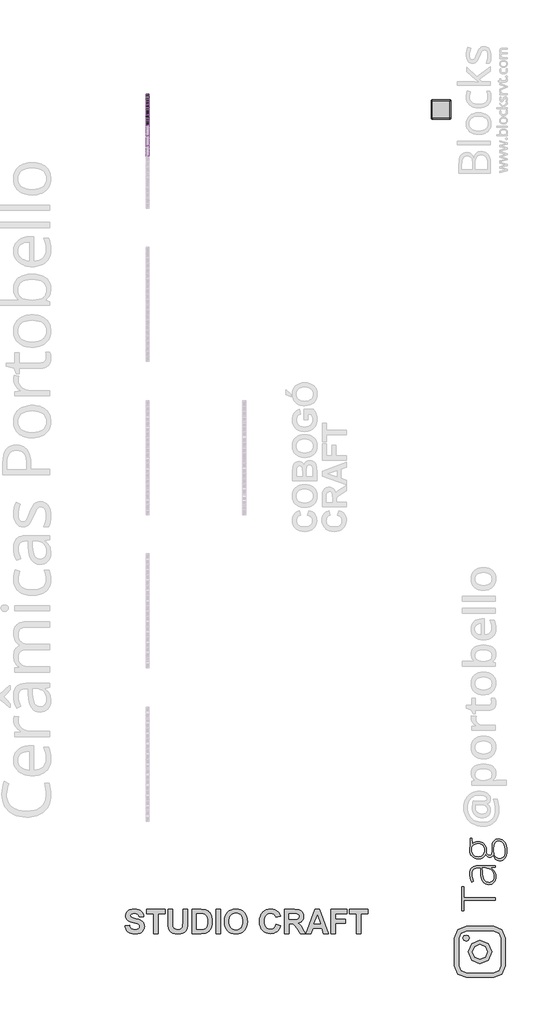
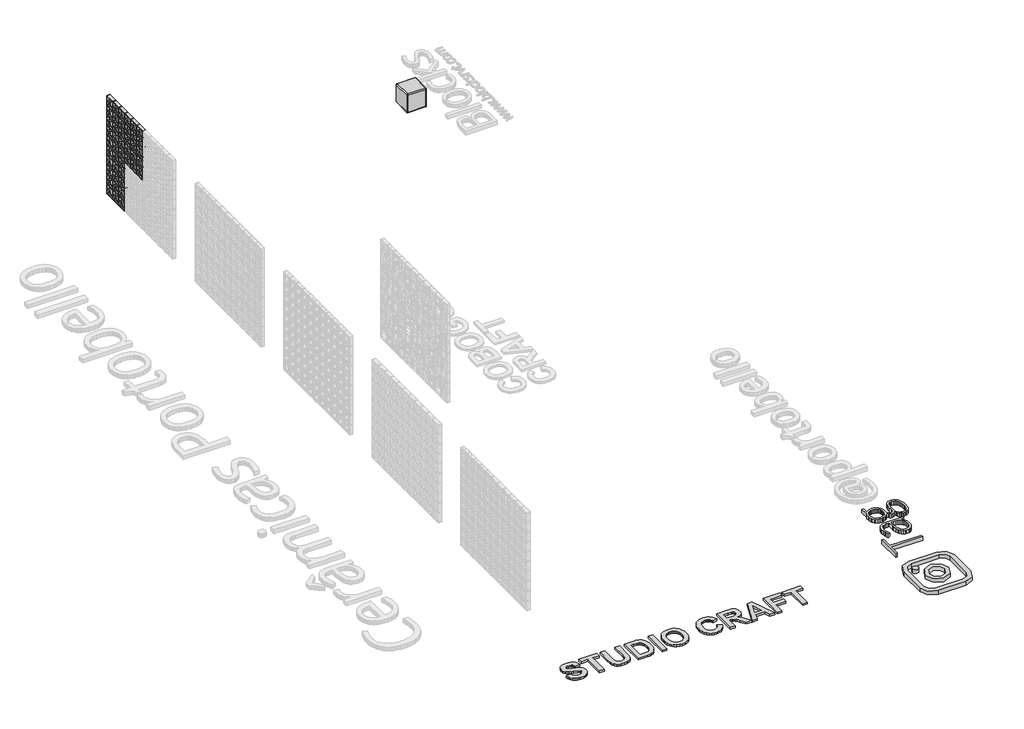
# One storey, part 4 of 8: 45 plates, 3 proxies, 1 furniture element.
"""IFC4 building model written with IfcOpenShell, lengths in millimetres."""

from ifc_helpers import new_model, si_unit, origin, origin_with_axes, place, context, project, spatial, polyline, outline, extrude, transform, mapped, element, save
from components import generic_models_d67f6705, branco_22256ad2, plate_8e8c4e3e

model = new_model("IFC4")

# Units and contexts
model_context = context("Model", 3, world=origin())
ifc_project = project(units=[si_unit("LENGTHUNIT", "METRE", prefix="MILLI")], contexts=[model_context])

# Site, building, storey
site = spatial("IfcSite", under=ifc_project)
building = spatial("IfcBuilding", under=site)
storey = spatial("IfcBuildingStorey", under=building, Name="PORTOBELLO - SHOWROOM", Elevation=0.0)

# Proxies
placement = place(None, origin())
generic_models_shape = generic_models_d67f6705(model_context)
element("IfcBuildingElementProxy", 1, Name="Blks_Instagram1 : Único 2", ObjectType="Blks_Instagram1 : Único 2", at=placement, inside=storey, context=model_context, shape_type="MappedRepresentation", body=[
    mapped(generic_models_shape, transform((236430.0390446, -13157.7679568, 0.0), x_axis=(-1.0, 0.0, 0.0), y_axis=(0.0, -1.0, 0.0), z_axis=(0.0, 0.0, 1.0))),
])
element("IfcBuildingElementProxy", 2, Name="600mm Arial", ObjectType="600mm Arial", at=placement, inside=storey, context=model_context, shape_type="SweptSolid", body=[
    extrude(outline(polyline([(227380.3047058, -12484.6483912), (227496.9057801, -12474.931635), (227503.9656107, -12503.0001553), (227513.9101034, -12527.0832874), (227526.739258, -12547.1810311), (227542.4530747, -12563.2933866), (227561.0989984, -12575.6480903), (227582.7244744, -12584.4728786), (227607.3295025, -12589.7677516), (227634.9140828, -12591.5327093), (227663.9030381, -12589.9717655), (227689.0774074, -12585.2889343), (227710.4371907, -12577.4842156), (227727.9823882, -12566.5576094), (227741.6655546, -12553.5434189), (227751.4392449, -12539.4759471), (227757.3034591, -12524.3551942), (227759.2581972, -12508.1811601), (227756.0129524, -12488.3491089), (227746.2772182, -12471.6674122), (227728.4188831, -12457.5667289), (227700.8058357, -12445.4777178), (227599.6908416, -12419.5157599), (227552.7581501, -12406.8479185), (227513.3787183, -12392.6808121), (227481.5525462, -12377.0144406), (227457.2796337, -12359.8488039), (227432.1052644, -12333.2700597), (227414.123572, -12303.9394997), (227403.3345566, -12271.8571241), (227399.7382182, -12237.0229327), (227401.3893076, -12214.097461), (227406.3425759, -12191.931111), (227414.598023, -12170.5238825), (227426.155649, -12149.8757756), (227440.8256735, -12130.812335), (227458.4183161, -12114.1591054), (227478.9335767, -12099.9160868), (227502.3714554, -12088.0832792), (227528.5516608, -12078.7840399), (227557.2939015, -12072.1417261), (227622.464489, -12066.827875), (227676.3763545, -12070.1395429), (227723.1809442, -12080.0745466), (227762.8782582, -12096.632886), (227795.4682964, -12119.8145611), (227821.0554381, -12148.5188458), (227839.7440624, -12181.6450136), (227851.5341694, -12219.1930646), (227856.4257591, -12261.1629988), (227739.8246848, -12261.1629988), (227734.5535344, -12239.4948223), (227726.938596, -12221.1003576), (227716.9798698, -12205.9796047), (227704.6773558, -12194.1325635), (227689.5186468, -12185.1986515), (227670.9913358, -12178.8172857), (227623.8309078, -12173.7121931), (227574.1843566, -12179.1399124), (227553.9158105, -12185.9245615), (227536.6837507, -12195.4230702), (227521.425407, -12211.7441841), (227516.3392924, -12232.7718518), (227520.9699341, -12252.6228811), (227534.8618589, -12269.3615119), (227550.8271346, -12279.0830126), (227575.1901927, -12288.9658266), (227649.1096563, -12309.2153947), (227728.0013662, -12330.2810184), (227783.246439, -12352.3335003), (227821.9616395, -12379.0356018), (227851.2637324, -12414.0500845), (227862.0242807, -12434.7835926), (227869.7103867, -12457.8134434), (227874.3220503, -12483.1396371), (227875.8592715, -12510.7621735), (227874.0421242, -12536.4584389), (227868.5906824, -12561.3196705), (227859.504946, -12585.3458684), (227846.7849151, -12608.5370326), (227830.7389827, -12629.8493709), (227811.6755421, -12648.2390911), (227789.5945932, -12663.7061933), (227764.4961361, -12676.2506773), (227736.2520689, -12685.9484555), (227704.7342899, -12692.8754399), (227631.8775965, -12698.4170274), (227577.3916453, -12695.0057248), (227529.62392, -12684.771817), (227488.5744207, -12667.7153041), (227454.2431474, -12643.836186), (227426.3928745, -12613.4191333), (227404.7863766, -12576.7488166), (227389.4236537, -12533.8252359), (227380.3047058, -12484.6483912)])), origin_with_axes(), (0.0, 0.0, 1.0), 50.0),
    extrude(outline(polyline([(228109.06142, -12688.7002712), (228109.06142, -12183.4289493), (227934.1598086, -12183.4289493), (227934.1598086, -12076.5446312), (228400.5641057, -12076.5446312), (228400.5641057, -12183.4289493), (228225.6624943, -12183.4289493), (228225.6624943, -12688.7002712), (228109.06142, -12688.7002712)])), origin_with_axes(), (0.0, 0.0, 1.0), 50.0),
    extrude(outline(polyline([(228478.2981553, -12076.5446312), (228594.8992295, -12076.5446312), (228594.8992295, -12406.7625174), (228596.1517801, -12471.5915001), (228599.9094319, -12508.7884574), (228605.726201, -12526.5471578), (228614.5225223, -12542.4744774), (228626.2983958, -12556.5704161), (228641.0538214, -12568.8349741), (228658.7887993, -12578.7652333), (228679.5033293, -12585.8582755), (228729.871046, -12591.5327093), (228780.1818285, -12586.1809022), (228800.0281133, -12579.4911433), (228816.3349936, -12570.1254808), (228839.621048, -12546.2700852), (228851.3304984, -12517.5183555), (228855.7713596, -12476.0133833), (228857.2516467, -12413.8982602), (228857.2516467, -12076.5446312), (228973.8527209, -12076.5446312), (228973.8527209, -12397.6530584), (228971.3096637, -12491.6702658), (228963.6804918, -12553.2729818), (228949.2192258, -12595.1575148), (228926.1798859, -12630.0201733), (228894.2398455, -12658.1646057), (228853.076478, -12679.8944609), (228800.2985503, -12693.7863858), (228733.5148296, -12698.4170274), (228655.287351, -12693.3688689), (228624.2297895, -12687.0586708), (228598.5430131, -12678.2243934), (228557.3606675, -12654.9952732), (228525.819166, -12625.6931803), (228503.6528159, -12592.5575234), (228490.5959248, -12557.8277113), (228481.3725976, -12492.7709921), (228478.2981553, -12402.6632608), (228478.2981553, -12076.5446312)])), origin_with_axes(), (0.0, 0.0, 1.0), 50.0),
    extrude(outline(polyline([(229090.4537952, -12076.5446312), (229317.1274982, -12076.5446312), (229384.6893186, -12079.4672493), (229434.0322211, -12088.2351035), (229460.0890693, -12097.7383568), (229484.2101574, -12110.3065634), (229506.3954855, -12125.9397234), (229526.6450536, -12144.6378367), (229544.7738257, -12166.0071091), (229560.5967661, -12189.6537462), (229585.3251515, -12243.7791147), (229594.1262173, -12274.8319317), (229600.4126929, -12309.3102849), (229605.4418733, -12388.5435995), (229600.7353195, -12458.8382576), (229586.6156582, -12518.8088622), (229573.8434376, -12550.6160563), (229558.604072, -12579.2349397), (229540.8975612, -12604.6655126), (229520.7239053, -12626.9077748), (229482.8437386, -12654.7675367), (229433.5767482, -12675.7952044), (229385.6382206, -12685.4740045), (229323.8077681, -12688.7002712), (229090.4537952, -12688.7002712), (229090.4537952, -12076.5446312)]), holes=[polyline([(229207.0548695, -12183.4289493), (229207.0548695, -12581.8159531), (229306.3479718, -12581.8159531), (229354.3244555, -12580.3736221), (229386.814859, -12576.0466291), (229416.4016225, -12566.1590706), (229440.4847545, -12551.0715292), (229459.8613328, -12527.7095627), (229475.3284349, -12492.9987286), (229485.462708, -12445.2499813), (229488.840799, -12382.7742755), (229485.462708, -12321.1715595), (229475.3284349, -12275.7381331), (229459.1401673, -12242.488608), (229437.6000925, -12217.437596), (229410.1009134, -12199.9018875), (229376.0353326, -12189.1982733), (229334.7770749, -12184.8712803), (229266.8736498, -12183.4289493), (229207.0548695, -12183.4289493)])]), origin_with_axes(), (0.0, 0.0, 1.0), 50.0),
    extrude(outline(polyline([(229702.6094352, -12688.7002712), (229702.6094352, -12076.5446312), (229819.2105095, -12076.5446312), (229819.2105095, -12688.7002712), (229702.6094352, -12688.7002712)])), origin_with_axes(), (0.0, 0.0, 1.0), 50.0),
    extrude(outline(polyline([(229916.3780714, -12386.4180591), (229918.095584, -12341.610908), (229923.2481217, -12300.5614087), (229931.8356845, -12263.2695612), (229943.8582725, -12229.7353655), (229968.0932288, -12185.4975556), (229999.8055327, -12146.0042555), (230036.9455559, -12113.6846544), (230077.4636701, -12090.9679412), (230106.6329167, -12080.4066622), (230137.9656598, -12072.8628916), (230171.4618994, -12068.3366292), (230207.1216355, -12066.827875), (230270.2236166, -12072.0610694), (230326.6832839, -12087.7606525), (230376.5006375, -12113.9266244), (230419.6756772, -12150.558985), (230438.3571847, -12172.5130183), (230454.5478246, -12196.509563), (230479.4565014, -12250.6301869), (230494.4017074, -12312.9208569), (230499.3834428, -12383.3815728), (230494.4396635, -12453.3630932), (230479.6083257, -12515.2789468), (230454.8894293, -12569.1291337), (230438.8221467, -12593.0296022), (230420.2829744, -12614.9136539), (230377.3926053, -12651.4463798), (230327.8219663, -12677.541184), (230271.5710574, -12693.1980665), (230208.6398787, -12698.4170274), (230145.0444685, -12693.2217891), (230088.3191087, -12677.6360742), (230038.4637991, -12651.6598827), (229995.4785397, -12615.2932147), (229960.8720848, -12569.8170877), (229936.1531885, -12516.5125194), (229921.3218507, -12455.3795099), (229916.3780714, -12386.4180591)]), holes=[polyline([(230032.9791457, -12382.1669783), (230036.0773106, -12430.5894459), (230045.3718054, -12472.7681385), (230060.8626301, -12508.7030562), (230082.5497847, -12538.3941989), (230109.0099161, -12561.6422972), (230138.8196716, -12578.2480817), (230171.979051, -12588.2115524), (230208.4880543, -12591.5327093), (230244.9591016, -12588.2352749), (230278.0046128, -12578.3429719), (230307.6245878, -12561.8558001), (230333.8190268, -12538.7737597), (230355.2404888, -12509.0968505), (230370.5415331, -12472.8250726), (230379.7221596, -12429.9584261), (230382.7823685, -12380.4969108), (230379.8028163, -12331.7233494), (230370.8641597, -12289.5541458), (230355.9663988, -12253.9892999), (230335.1095334, -12225.0288117), (230309.3183779, -12202.5777911), (230279.6177461, -12186.5413478), (230246.0076383, -12176.9194818), (230208.4880543, -12173.7121931), (230170.9305143, -12176.9574379), (230137.2065382, -12186.6931721), (230107.3161261, -12202.9193958), (230081.259278, -12225.636109), (230060.1367201, -12254.8907568), (230045.0491787, -12290.7307843), (230035.9966539, -12333.1561914), (230032.9791457, -12382.1669783)])]), origin_with_axes(), (0.0, 0.0, 1.0), 50.0),
    extrude(outline(polyline([(231228.140157, -12455.4981226), (231344.7412313, -12494.3651474), (231328.6383649, -12540.4675497), (231307.9617909, -12580.2407758), (231282.7115094, -12613.6848258), (231252.8875205, -12640.7996997), (231218.6131812, -12661.7561997), (231180.011849, -12676.7251283), (231137.0835238, -12685.7064855), (231089.8282056, -12688.7002712), (231031.4422673, -12683.5856896), (230978.5030263, -12668.2419447), (230931.0104826, -12642.6690365), (230888.9646363, -12606.8669652), (230854.5574508, -12562.1926603), (230829.9808897, -12510.0030519), (230815.2349531, -12450.2981398), (230810.3196409, -12383.0779242), (230815.2776537, -12312.1949469), (230830.1516921, -12249.700263), (230854.9417561, -12195.5938726), (230871.0552977, -12171.6862874), (230889.6478457, -12149.8757756), (230932.4385801, -12113.5423191), (230981.4825785, -12087.5898502), (231036.7798409, -12072.0183688), (231098.3303673, -12066.827875), (231152.1520872, -12071.1074229), (231200.6599559, -12083.9460666), (231243.8539737, -12105.3438061), (231281.7341404, -12135.3006413), (231301.4428344, -12157.7042169), (231318.5135808, -12184.5296756), (231332.9463798, -12215.7770175), (231344.7412313, -12251.4462426), (231228.140157, -12270.879755), (231220.7909113, -12249.5247161), (231210.2818219, -12230.5514212), (231196.612889, -12213.9598702), (231179.7841126, -12199.7500632), (231160.3838118, -12188.3584951), (231139.0003058, -12180.2216606), (231115.6335948, -12175.33956), (231090.2836786, -12173.7121931), (231055.6345231, -12176.6680228), (231024.4109037, -12185.5355117), (230996.6128205, -12200.3146599), (230972.2402733, -12221.0054674), (230952.4129666, -12248.3101216), (230938.2506047, -12282.9308101), (230929.7531875, -12324.8675327), (230926.9207152, -12374.1202895), (230929.6677864, -12426.2529639), (230937.909, -12470.3009934), (230951.644356, -12506.2643781), (230970.8738545, -12534.143118), (230994.5062581, -12554.9999834), (231021.4503296, -12569.8977443), (231051.7060689, -12578.8364009), (231085.2734762, -12581.8159531), (231110.2628096, -12579.9134046), (231133.4587183, -12574.2057593), (231154.8612023, -12564.693017), (231174.4702615, -12551.3751779), (231191.8588902, -12533.9675712), (231206.6000823, -12512.1855264), (231218.6938379, -12486.0290436), (231228.140157, -12455.4981226)])), origin_with_axes(), (0.0, 0.0, 1.0), 50.0),
    extrude(outline(polyline([(231441.9087932, -12688.7002712), (231441.9087932, -12076.5446312), (231699.4028323, -12076.5446312), (231783.2857666, -12080.6818438), (231815.263763, -12085.8533596), (231840.5994456, -12093.0934816), (231861.5132451, -12102.9810401), (231880.225592, -12116.0948654), (231896.7364863, -12132.4349574), (231911.045928, -12152.001316), (231922.603554, -12173.9494186), (231930.8590012, -12197.4347424), (231935.8122695, -12222.4572874), (231937.4633589, -12249.0170536), (231935.0768705, -12282.1242434), (231927.9174051, -12312.2139249), (231915.9849628, -12339.2860982), (231899.2795436, -12363.3407631), (231877.8201255, -12383.7990897), (231851.6256866, -12400.0822475), (231820.6962268, -12412.1902366), (231785.0317462, -12420.1230571), (231818.8506125, -12444.4908598), (231846.2169453, -12471.1360271), (231874.5321802, -12509.7373593), (231911.1977523, -12569.9736565), (231986.0471399, -12688.7002712), (231849.8607289, -12688.7002712), (231761.1953287, -12548.8700766), (231718.3618937, -12495.1812031), (231691.58388, -12465.8980882), (231672.2642359, -12451.4937563), (231651.8059094, -12442.4412315), (231624.6483349, -12437.6587656), (231585.230947, -12436.0646103), (231558.5098675, -12436.0646103), (231558.5098675, -12688.7002712), (231441.9087932, -12688.7002712)]), holes=[polyline([(231558.5098675, -12329.1802922), (231654.6146592, -12329.1802922), (231730.4698828, -12327.4153345), (231771.2916456, -12322.1204615), (231792.0536208, -12312.5175735), (231807.7294813, -12297.828571), (231817.5790838, -12278.4519928), (231820.8622846, -12254.7863776), (231816.5352916, -12228.5777051), (231803.5543127, -12207.9485763), (231782.6784693, -12193.39242), (231754.6668831, -12185.4026654), (231659.9285102, -12183.4289493), (231558.5098675, -12183.4289493), (231558.5098675, -12329.1802922)])]), origin_with_axes(), (0.0, 0.0, 1.0), 50.0),
    extrude(outline(polyline([(232569.0525113, -12688.7002712), (232446.5302887, -12688.7002712), (232398.553805, -12552.6656845), (232167.3253725, -12552.6656845), (232119.9561861, -12688.7002712), (231995.7638961, -12688.7002712), (232219.2492884, -12076.5446312), (232343.4415785, -12076.5446312), (232569.0525113, -12688.7002712)]), holes=[polyline([(232361.2050234, -12445.7813664), (232282.4082037, -12222.2959741), (232204.6741541, -12445.7813664), (232361.2050234, -12445.7813664)])]), origin_with_axes(), (0.0, 0.0, 1.0), 50.0),
    extrude(outline(polyline([(232627.3530484, -12688.7002712), (232627.3530484, -12076.5446312), (233045.1735646, -12076.5446312), (233045.1735646, -12183.4289493), (232743.9541227, -12183.4289493), (232743.9541227, -12319.463536), (233006.3065398, -12319.463536), (233006.3065398, -12426.3478541), (232743.9541227, -12426.3478541), (232743.9541227, -12688.7002712), (232627.3530484, -12688.7002712)])), origin_with_axes(), (0.0, 0.0, 1.0), 50.0),
    extrude(outline(polyline([(233278.3757131, -12688.7002712), (233278.3757131, -12183.4289493), (233103.4741017, -12183.4289493), (233103.4741017, -12076.5446312), (233569.8783988, -12076.5446312), (233569.8783988, -12183.4289493), (233394.9767874, -12183.4289493), (233394.9767874, -12688.7002712), (233278.3757131, -12688.7002712)])), origin_with_axes(), (0.0, 0.0, 1.0), 50.0),
])
element("IfcBuildingElementProxy", 3, Name="80mm OpenSans Light", ObjectType="80mm OpenSans Light", at=placement, inside=storey, context=model_context, shape_type="SweptSolid", body=[
    extrude(outline(polyline([(236821.7520293, -11777.411102), (236821.7520293, -11837.2198237), (236023.6237262, -11837.2198237), (236023.6237262, -12111.0674175), (235974.758728, -12111.0674175), (235974.758728, -11503.8180134), (236023.6237262, -11503.8180134), (236023.6237262, -11777.411102), (236821.7520293, -11777.411102)])), origin_with_axes(), (0.0, 0.0, 1.0), 100.0),
    extrude(outline(polyline([(236821.7520293, -11004.4788136), (236720.4589602, -11018.9856099), (236720.4589602, -11023.5667035), (236750.2917415, -11047.7844638), (236775.40027, -11072.3362622), (236795.7845457, -11097.2220986), (236811.4445687, -11122.4419732), (236823.0802283, -11148.9820934), (236831.3914137, -11177.828667), (236836.3781249, -11208.981694), (236838.040362, -11242.4411744), (236834.9783463, -11286.7887052), (236825.7922993, -11325.9188795), (236810.482221, -11359.8316973), (236789.0481113, -11388.5271584), (236762.2057661, -11411.3530934), (236730.6709813, -11427.6573327), (236694.4437569, -11437.4398763), (236653.5240929, -11440.7007242), (236608.8186641, -11435.8412655), (236569.3783116, -11421.2628896), (236535.2030354, -11396.9655964), (236506.2928355, -11362.949386), (236483.1090026, -11319.7391752), (236466.1128273, -11267.8598811), (236455.3043096, -11207.3115037), (236450.6834496, -11138.0940429), (236447.1203768, -11016.6950631), (236404.3635034, -11016.6950631), (236361.3521248, -11019.0015165), (236323.9398606, -11025.9208766), (236292.1267108, -11037.4531434), (236265.9126753, -11053.5983169), (236245.4250068, -11074.8813142), (236230.7909579, -11101.8270521), (236222.0105285, -11134.4355307), (236219.0837188, -11172.7067499), (236222.1377811, -11217.3883189), (236231.2999683, -11262.8652166), (236246.5702802, -11309.137443), (236267.9487169, -11356.2049982), (236218.065698, -11377.8379401), (236197.1326454, -11325.5689349), (236182.1804649, -11273.6180612), (236173.2091567, -11221.985319), (236170.2187206, -11170.6707083), (236173.6465875, -11121.5591583), (236183.9301882, -11079.08065), (236201.0695227, -11043.2351834), (236225.0645909, -11014.0227585), (236256.3130574, -10991.3638426), (236295.2125863, -10975.1789026), (236341.7631778, -10965.4679386), (236395.9648319, -10962.2309506), (236821.7520293, -10962.2309506), (236821.7520293, -11004.4788136)]), holes=[polyline([(236789.1753639, -11239.387112), (236785.3975523, -11190.9356848), (236774.0641177, -11147.8924931), (236755.17506, -11110.2575368), (236728.7303792, -11078.030816), (236695.5731237, -11052.1985383), (236656.5463422, -11033.7469114), (236611.6500345, -11022.6759353), (236560.8842006, -11018.9856099), (236495.9853749, -11018.9856099), (236500.8209737, -11130.7133921), (236506.0144704, -11193.1944184), (236514.9778254, -11246.0042472), (236527.7110386, -11289.1428783), (236544.2141101, -11322.610312), (236565.155116, -11347.6631675), (236591.2021324, -11365.5580642), (236622.3551594, -11376.2950023), (236658.6141969, -11379.8739817), (236687.8186685, -11377.5754816), (236713.5873198, -11370.6799814), (236735.920151, -11359.187481), (236754.817162, -11343.0979805), (236769.8488753, -11322.8250507), (236780.5858134, -11298.7822627), (236787.0279762, -11270.9696165), (236789.1753639, -11239.387112)])]), origin_with_axes(), (0.0, 0.0, 1.0), 100.0),
    extrude(outline(polyline([(236186.5070533, -10267.4317581), (236227.2278851, -10267.4317581), (236235.3720515, -10397.9929251), (236269.4121218, -10375.055644), (236305.1064759, -10358.6718719), (236342.4551138, -10348.8416086), (236381.4580355, -10345.5648541), (236426.5531754, -10349.3347124), (236467.1626612, -10360.6442872), (236503.2864928, -10379.4935784), (236534.9246703, -10405.8825862), (236560.645602, -10438.634224), (236579.017696, -10476.5714052), (236590.0409524, -10519.6941298), (236593.7153712, -10568.0023978), (236590.1522985, -10627.8111195), (236609.5265067, -10657.8745461), (236632.0184037, -10679.8574326), (236656.8008474, -10693.314395), (236683.046696, -10697.8000491), (236696.9331359, -10696.3764107), (236708.8153474, -10692.1054953), (236718.6933304, -10684.9873031), (236726.567085, -10675.0218339), (236736.8745455, -10644.5130232), (236740.3103657, -10598.5430217), (236740.3103657, -10488.5967758), (236742.919044, -10440.5509663), (236750.7450788, -10398.4701223), (236763.7884703, -10362.354244), (236782.0492183, -10332.2033312), (236805.4159768, -10308.430955), (236833.7773999, -10291.4506863), (236867.1334875, -10281.262525), (236905.4842397, -10277.8664713), (236952.7665336, -10282.9088555), (236994.3383672, -10298.0360083), (237030.1997403, -10323.2479295), (237060.3506531, -10358.5446193), (237084.2343753, -10403.1466554), (237101.2941769, -10456.2746156), (237111.5300579, -10517.9285), (237114.9420182, -10588.1083085), (237112.0231617, -10644.0596858), (237103.2665922, -10693.314395), (237088.6723097, -10735.8724362), (237068.2403142, -10771.7338094), (237042.5909622, -10800.1827186), (237012.34461, -10820.5033681), (236977.5012576, -10832.6957577), (236938.0609051, -10836.7598876), (236906.2636618, -10834.2466488), (236877.2977889, -10826.7069323), (236851.1632863, -10814.1407381), (236827.8601541, -10796.5480662), (236807.7065236, -10774.6447126), (236791.0205265, -10749.146473), (236777.8021628, -10720.0533475), (236768.0514324, -10687.365336), (236753.8627675, -10713.0067348), (236734.7112513, -10732.9217666), (236711.4876519, -10745.7106528), (236685.0827376, -10749.9736149), (236655.4487885, -10744.9312306), (236627.628189, -10729.8040779), (236601.620939, -10704.5921566), (236577.4270385, -10669.2954669), (236563.9223564, -10695.3742965), (236547.0772936, -10718.3831571), (236526.89185, -10738.3220488), (236503.3660257, -10755.1909715), (236477.2474297, -10768.6081674), (236449.283671, -10778.1918788), (236419.4747496, -10783.9421056), (236387.8206655, -10785.8588479), (236341.0076155, -10782.1208028), (236299.0619775, -10770.9066675), (236261.9837513, -10752.2164419), (236229.7729371, -10726.0501262), (236203.7179674, -10693.5211805), (236185.1072747, -10655.7430651), (236173.9408591, -10612.7157799), (236170.2187206, -10564.439325), (236174.2908038, -10509.5298284), (236186.5070533, -10468.4908651), (236186.5070533, -10267.4317581)]), holes=[polyline([(236930.9347595, -10775.9331451), (236962.6087268, -10772.9307791), (236990.0594985, -10763.9236811), (237013.2870745, -10748.911851), (237032.2914549, -10727.8952889), (237047.0726397, -10700.8739948), (237057.6306288, -10667.8479686), (237063.9654222, -10628.8172104), (237066.07702, -10583.7817201), (237063.5041315, -10525.8619042), (237055.7854661, -10475.6647304), (237042.9210236, -10433.1901987), (237024.9108041, -10398.4383092), (237001.7548077, -10371.4090617), (236973.4530343, -10352.1024564), (236940.0054839, -10340.5184933), (236901.4121565, -10336.6571722), (236873.9176417, -10339.0749716), (236850.4793036, -10346.3283697), (236831.0971421, -10358.4173667), (236815.7711571, -10375.3419624), (236804.1354976, -10397.6747936), (236795.8243122, -10425.9884969), (236790.8376009, -10460.2830725), (236789.1753639, -10500.5585202), (236789.1753639, -10603.3786204), (236791.3903544, -10643.8210872), (236798.0353261, -10678.871225), (236809.1102789, -10708.5290339), (236824.6152128, -10732.794514), (236844.5501278, -10751.6676651), (236868.9150239, -10765.1484874), (236897.7099012, -10773.2369807), (236930.9347595, -10775.9331451)]), polyline([(236387.0571499, -10727.5771574), (236422.4890455, -10724.8173666), (236453.7056988, -10716.5379944), (236480.7071097, -10702.7390407), (236503.4932783, -10683.4205054), (236521.5870073, -10659.4890635), (236534.5110994, -10631.8513895), (236542.2655547, -10600.5074837), (236544.8503731, -10565.4573458), (236542.2814612, -10528.554092), (236534.5747257, -10496.2319318), (236521.7301665, -10468.4908651), (236503.7477835, -10445.330892), (236480.8979886, -10427.070144), (236453.4511936, -10414.0267526), (236421.4073984, -10406.2007177), (236384.7666031, -10403.5920394), (236345.8829807, -10406.2802506), (236312.2008083, -10414.3448841), (236283.7200859, -10427.7859399), (236260.4408136, -10446.603418), (236242.3470846, -10470.2405884), (236229.4229925, -10498.1407208), (236221.6685372, -10530.3038153), (236219.0837188, -10566.7298718), (236221.8594161, -10602.1538142), (236230.1865081, -10633.6011128), (236244.0649947, -10661.0717677), (236263.4948759, -10684.5657788), (236287.871702, -10703.3832569), (236316.591023, -10716.8243128), (236349.652839, -10724.8889462), (236387.0571499, -10727.5771574)])]), origin_with_axes(), (0.0, 0.0, 1.0), 100.0),
])

# Furniture
branco_shape = branco_22256ad2(model_context)
element("IfcFurniture", 4, ObjectType="Blks_Mob_Blocks Revit_Cubo : Branco", at=placement, inside=storey, context=model_context, shape_type="MappedRepresentation", body=[
    mapped(branco_shape, transform((235442.2307809, 8298.1267382, 0.0), x_axis=(1.0, 0.0, 0.0), y_axis=(0.0, 1.0, 0.0), z_axis=(0.0, 0.0, 1.0))),
])

# Plates
plate_shape = plate_8e8c4e3e(model_context)
element("IfcPlate", 5, ObjectType="PORTOBELLO - STUDIO CRAFT 6 26X26 (PAINEL CORTINA) : STUDIO CRAFT 6", at=placement, inside=storey, context=model_context, shape_type="MappedRepresentation", body=[
    mapped(plate_shape, transform((227956.3824585, 8030.8700166, 0.0), x_axis=(0.0, 1.0, 0.0), y_axis=(-1.0, 0.0, 0.0), z_axis=(0.0, 0.0, 1.0))),
])
element("IfcPlate", 6, ObjectType="PORTOBELLO - STUDIO CRAFT 6 26X26 (PAINEL CORTINA) : STUDIO CRAFT 6", at=placement, inside=storey, context=model_context, shape_type="MappedRepresentation", body=[
    mapped(plate_shape, transform((227956.3824585, 8294.8700166, 0.0), x_axis=(0.0, 1.0, 0.0), y_axis=(-1.0, 0.0, 0.0), z_axis=(0.0, 0.0, 1.0))),
])
element("IfcPlate", 7, ObjectType="PORTOBELLO - STUDIO CRAFT 6 26X26 (PAINEL CORTINA) : STUDIO CRAFT 6", at=placement, inside=storey, context=model_context, shape_type="MappedRepresentation", body=[
    mapped(plate_shape, transform((227956.3824585, 8558.8700165, 0.0), x_axis=(0.0, 1.0, 0.0), y_axis=(-1.0, 0.0, 0.0), z_axis=(0.0, 0.0, 1.0))),
])
element("IfcPlate", 8, ObjectType="PORTOBELLO - STUDIO CRAFT 6 26X26 (PAINEL CORTINA) : STUDIO CRAFT 6", at=placement, inside=storey, context=model_context, shape_type="MappedRepresentation", body=[
    mapped(plate_shape, transform((227956.3824585, 8030.8700166, 264.0), x_axis=(0.0, 1.0, 0.0), y_axis=(-1.0, 0.0, 0.0), z_axis=(0.0, 0.0, 1.0))),
])
element("IfcPlate", 9, ObjectType="PORTOBELLO - STUDIO CRAFT 6 26X26 (PAINEL CORTINA) : STUDIO CRAFT 6", at=placement, inside=storey, context=model_context, shape_type="MappedRepresentation", body=[
    mapped(plate_shape, transform((227956.3824585, 8294.8700166, 264.0), x_axis=(0.0, 1.0, 0.0), y_axis=(-1.0, 0.0, 0.0), z_axis=(0.0, 0.0, 1.0))),
])
element("IfcPlate", 10, ObjectType="PORTOBELLO - STUDIO CRAFT 6 26X26 (PAINEL CORTINA) : STUDIO CRAFT 6", at=placement, inside=storey, context=model_context, shape_type="MappedRepresentation", body=[
    mapped(plate_shape, transform((227956.3824585, 8558.8700165, 264.0), x_axis=(0.0, 1.0, 0.0), y_axis=(-1.0, 0.0, 0.0), z_axis=(0.0, 0.0, 1.0))),
])
element("IfcPlate", 11, ObjectType="PORTOBELLO - STUDIO CRAFT 6 26X26 (PAINEL CORTINA) : STUDIO CRAFT 6", at=placement, inside=storey, context=model_context, shape_type="MappedRepresentation", body=[
    mapped(plate_shape, transform((227956.3824585, 8030.8700166, 528.0), x_axis=(0.0, 1.0, 0.0), y_axis=(-1.0, 0.0, 0.0), z_axis=(0.0, 0.0, 1.0))),
])
element("IfcPlate", 12, ObjectType="PORTOBELLO - STUDIO CRAFT 6 26X26 (PAINEL CORTINA) : STUDIO CRAFT 6", at=placement, inside=storey, context=model_context, shape_type="MappedRepresentation", body=[
    mapped(plate_shape, transform((227956.3824585, 8294.8700166, 528.0), x_axis=(0.0, 1.0, 0.0), y_axis=(-1.0, 0.0, 0.0), z_axis=(0.0, 0.0, 1.0))),
])
element("IfcPlate", 13, ObjectType="PORTOBELLO - STUDIO CRAFT 6 26X26 (PAINEL CORTINA) : STUDIO CRAFT 6", at=placement, inside=storey, context=model_context, shape_type="MappedRepresentation", body=[
    mapped(plate_shape, transform((227956.3824585, 8558.8700165, 528.0), x_axis=(0.0, 1.0, 0.0), y_axis=(-1.0, 0.0, 0.0), z_axis=(0.0, 0.0, 1.0))),
])
element("IfcPlate", 14, ObjectType="PORTOBELLO - STUDIO CRAFT 6 26X26 (PAINEL CORTINA) : STUDIO CRAFT 6", at=placement, inside=storey, context=model_context, shape_type="MappedRepresentation", body=[
    mapped(plate_shape, transform((227956.3824585, 8030.8700166, 792.0), x_axis=(0.0, 1.0, 0.0), y_axis=(-1.0, 0.0, 0.0), z_axis=(0.0, 0.0, 1.0))),
])
element("IfcPlate", 15, ObjectType="PORTOBELLO - STUDIO CRAFT 6 26X26 (PAINEL CORTINA) : STUDIO CRAFT 6", at=placement, inside=storey, context=model_context, shape_type="MappedRepresentation", body=[
    mapped(plate_shape, transform((227956.3824585, 8294.8700166, 792.0), x_axis=(0.0, 1.0, 0.0), y_axis=(-1.0, 0.0, 0.0), z_axis=(0.0, 0.0, 1.0))),
])
element("IfcPlate", 16, ObjectType="PORTOBELLO - STUDIO CRAFT 6 26X26 (PAINEL CORTINA) : STUDIO CRAFT 6", at=placement, inside=storey, context=model_context, shape_type="MappedRepresentation", body=[
    mapped(plate_shape, transform((227956.3824585, 8558.8700165, 792.0), x_axis=(0.0, 1.0, 0.0), y_axis=(-1.0, 0.0, 0.0), z_axis=(0.0, 0.0, 1.0))),
])
element("IfcPlate", 17, ObjectType="PORTOBELLO - STUDIO CRAFT 6 26X26 (PAINEL CORTINA) : STUDIO CRAFT 6", at=placement, inside=storey, context=model_context, shape_type="MappedRepresentation", body=[
    mapped(plate_shape, transform((227956.3824585, 8030.8700166, 1056.0), x_axis=(0.0, 1.0, 0.0), y_axis=(-1.0, 0.0, 0.0), z_axis=(0.0, 0.0, 1.0))),
])
element("IfcPlate", 18, ObjectType="PORTOBELLO - STUDIO CRAFT 6 26X26 (PAINEL CORTINA) : STUDIO CRAFT 6", at=placement, inside=storey, context=model_context, shape_type="MappedRepresentation", body=[
    mapped(plate_shape, transform((227956.3824585, 8294.8700166, 1056.0), x_axis=(0.0, 1.0, 0.0), y_axis=(-1.0, 0.0, 0.0), z_axis=(0.0, 0.0, 1.0))),
])
element("IfcPlate", 19, ObjectType="PORTOBELLO - STUDIO CRAFT 6 26X26 (PAINEL CORTINA) : STUDIO CRAFT 6", at=placement, inside=storey, context=model_context, shape_type="MappedRepresentation", body=[
    mapped(plate_shape, transform((227956.3824585, 8558.8700165, 1056.0), x_axis=(0.0, 1.0, 0.0), y_axis=(-1.0, 0.0, 0.0), z_axis=(0.0, 0.0, 1.0))),
])
element("IfcPlate", 20, ObjectType="PORTOBELLO - STUDIO CRAFT 6 26X26 (PAINEL CORTINA) : STUDIO CRAFT 6", at=placement, inside=storey, context=model_context, shape_type="MappedRepresentation", body=[
    mapped(plate_shape, transform((227956.3824585, 7238.8700166, 1320.0), x_axis=(0.0, 1.0, 0.0), y_axis=(-1.0, 0.0, 0.0), z_axis=(0.0, 0.0, 1.0))),
])
element("IfcPlate", 21, ObjectType="PORTOBELLO - STUDIO CRAFT 6 26X26 (PAINEL CORTINA) : STUDIO CRAFT 6", at=placement, inside=storey, context=model_context, shape_type="MappedRepresentation", body=[
    mapped(plate_shape, transform((227956.3824585, 7502.8700166, 1320.0), x_axis=(0.0, 1.0, 0.0), y_axis=(-1.0, 0.0, 0.0), z_axis=(0.0, 0.0, 1.0))),
])
element("IfcPlate", 22, ObjectType="PORTOBELLO - STUDIO CRAFT 6 26X26 (PAINEL CORTINA) : STUDIO CRAFT 6", at=placement, inside=storey, context=model_context, shape_type="MappedRepresentation", body=[
    mapped(plate_shape, transform((227956.3824585, 7766.8700166, 1320.0), x_axis=(0.0, 1.0, 0.0), y_axis=(-1.0, 0.0, 0.0), z_axis=(0.0, 0.0, 1.0))),
])
element("IfcPlate", 23, ObjectType="PORTOBELLO - STUDIO CRAFT 6 26X26 (PAINEL CORTINA) : STUDIO CRAFT 6", at=placement, inside=storey, context=model_context, shape_type="MappedRepresentation", body=[
    mapped(plate_shape, transform((227956.3824585, 8030.8700166, 1320.0), x_axis=(0.0, 1.0, 0.0), y_axis=(-1.0, 0.0, 0.0), z_axis=(0.0, 0.0, 1.0))),
])
element("IfcPlate", 24, ObjectType="PORTOBELLO - STUDIO CRAFT 6 26X26 (PAINEL CORTINA) : STUDIO CRAFT 6", at=placement, inside=storey, context=model_context, shape_type="MappedRepresentation", body=[
    mapped(plate_shape, transform((227956.3824585, 8294.8700166, 1320.0), x_axis=(0.0, 1.0, 0.0), y_axis=(-1.0, 0.0, 0.0), z_axis=(0.0, 0.0, 1.0))),
])
element("IfcPlate", 25, ObjectType="PORTOBELLO - STUDIO CRAFT 6 26X26 (PAINEL CORTINA) : STUDIO CRAFT 6", at=placement, inside=storey, context=model_context, shape_type="MappedRepresentation", body=[
    mapped(plate_shape, transform((227956.3824585, 8558.8700165, 1320.0), x_axis=(0.0, 1.0, 0.0), y_axis=(-1.0, 0.0, 0.0), z_axis=(0.0, 0.0, 1.0))),
])
element("IfcPlate", 26, ObjectType="PORTOBELLO - STUDIO CRAFT 6 26X26 (PAINEL CORTINA) : STUDIO CRAFT 6", at=placement, inside=storey, context=model_context, shape_type="MappedRepresentation", body=[
    mapped(plate_shape, transform((227956.3824585, 7238.8700166, 1584.0), x_axis=(0.0, 1.0, 0.0), y_axis=(-1.0, 0.0, 0.0), z_axis=(0.0, 0.0, 1.0))),
])
element("IfcPlate", 27, ObjectType="PORTOBELLO - STUDIO CRAFT 6 26X26 (PAINEL CORTINA) : STUDIO CRAFT 6", at=placement, inside=storey, context=model_context, shape_type="MappedRepresentation", body=[
    mapped(plate_shape, transform((227956.3824585, 7502.8700166, 1584.0), x_axis=(0.0, 1.0, 0.0), y_axis=(-1.0, 0.0, 0.0), z_axis=(0.0, 0.0, 1.0))),
])
element("IfcPlate", 28, ObjectType="PORTOBELLO - STUDIO CRAFT 6 26X26 (PAINEL CORTINA) : STUDIO CRAFT 6", at=placement, inside=storey, context=model_context, shape_type="MappedRepresentation", body=[
    mapped(plate_shape, transform((227956.3824585, 7766.8700166, 1584.0), x_axis=(0.0, 1.0, 0.0), y_axis=(-1.0, 0.0, 0.0), z_axis=(0.0, 0.0, 1.0))),
])
element("IfcPlate", 29, ObjectType="PORTOBELLO - STUDIO CRAFT 6 26X26 (PAINEL CORTINA) : STUDIO CRAFT 6", at=placement, inside=storey, context=model_context, shape_type="MappedRepresentation", body=[
    mapped(plate_shape, transform((227956.3824585, 8030.8700166, 1584.0), x_axis=(0.0, 1.0, 0.0), y_axis=(-1.0, 0.0, 0.0), z_axis=(0.0, 0.0, 1.0))),
])
element("IfcPlate", 30, ObjectType="PORTOBELLO - STUDIO CRAFT 6 26X26 (PAINEL CORTINA) : STUDIO CRAFT 6", at=placement, inside=storey, context=model_context, shape_type="MappedRepresentation", body=[
    mapped(plate_shape, transform((227956.3824585, 8294.8700166, 1584.0), x_axis=(0.0, 1.0, 0.0), y_axis=(-1.0, 0.0, 0.0), z_axis=(0.0, 0.0, 1.0))),
])
element("IfcPlate", 31, ObjectType="PORTOBELLO - STUDIO CRAFT 6 26X26 (PAINEL CORTINA) : STUDIO CRAFT 6", at=placement, inside=storey, context=model_context, shape_type="MappedRepresentation", body=[
    mapped(plate_shape, transform((227956.3824585, 8558.8700165, 1584.0), x_axis=(0.0, 1.0, 0.0), y_axis=(-1.0, 0.0, 0.0), z_axis=(0.0, 0.0, 1.0))),
])
element("IfcPlate", 32, ObjectType="PORTOBELLO - STUDIO CRAFT 6 26X26 (PAINEL CORTINA) : STUDIO CRAFT 6", at=placement, inside=storey, context=model_context, shape_type="MappedRepresentation", body=[
    mapped(plate_shape, transform((227956.3824585, 7238.8700166, 1848.0), x_axis=(0.0, 1.0, 0.0), y_axis=(-1.0, 0.0, 0.0), z_axis=(0.0, 0.0, 1.0))),
])
element("IfcPlate", 33, ObjectType="PORTOBELLO - STUDIO CRAFT 6 26X26 (PAINEL CORTINA) : STUDIO CRAFT 6", at=placement, inside=storey, context=model_context, shape_type="MappedRepresentation", body=[
    mapped(plate_shape, transform((227956.3824585, 7502.8700166, 1848.0), x_axis=(0.0, 1.0, 0.0), y_axis=(-1.0, 0.0, 0.0), z_axis=(0.0, 0.0, 1.0))),
])
element("IfcPlate", 34, ObjectType="PORTOBELLO - STUDIO CRAFT 6 26X26 (PAINEL CORTINA) : STUDIO CRAFT 6", at=placement, inside=storey, context=model_context, shape_type="MappedRepresentation", body=[
    mapped(plate_shape, transform((227956.3824585, 7766.8700166, 1848.0), x_axis=(0.0, 1.0, 0.0), y_axis=(-1.0, 0.0, 0.0), z_axis=(0.0, 0.0, 1.0))),
])
element("IfcPlate", 35, ObjectType="PORTOBELLO - STUDIO CRAFT 6 26X26 (PAINEL CORTINA) : STUDIO CRAFT 6", at=placement, inside=storey, context=model_context, shape_type="MappedRepresentation", body=[
    mapped(plate_shape, transform((227956.3824585, 8030.8700166, 1848.0), x_axis=(0.0, 1.0, 0.0), y_axis=(-1.0, 0.0, 0.0), z_axis=(0.0, 0.0, 1.0))),
])
element("IfcPlate", 36, ObjectType="PORTOBELLO - STUDIO CRAFT 6 26X26 (PAINEL CORTINA) : STUDIO CRAFT 6", at=placement, inside=storey, context=model_context, shape_type="MappedRepresentation", body=[
    mapped(plate_shape, transform((227956.3824585, 8294.8700166, 1848.0), x_axis=(0.0, 1.0, 0.0), y_axis=(-1.0, 0.0, 0.0), z_axis=(0.0, 0.0, 1.0))),
])
element("IfcPlate", 37, ObjectType="PORTOBELLO - STUDIO CRAFT 6 26X26 (PAINEL CORTINA) : STUDIO CRAFT 6", at=placement, inside=storey, context=model_context, shape_type="MappedRepresentation", body=[
    mapped(plate_shape, transform((227956.3824585, 8558.8700165, 1848.0), x_axis=(0.0, 1.0, 0.0), y_axis=(-1.0, 0.0, 0.0), z_axis=(0.0, 0.0, 1.0))),
])
element("IfcPlate", 38, ObjectType="PORTOBELLO - STUDIO CRAFT 6 26X26 (PAINEL CORTINA) : STUDIO CRAFT 6", at=placement, inside=storey, context=model_context, shape_type="MappedRepresentation", body=[
    mapped(plate_shape, transform((227956.3824585, 7238.8700166, 2112.0), x_axis=(0.0, 1.0, 0.0), y_axis=(-1.0, 0.0, 0.0), z_axis=(0.0, 0.0, 1.0))),
])
element("IfcPlate", 39, ObjectType="PORTOBELLO - STUDIO CRAFT 6 26X26 (PAINEL CORTINA) : STUDIO CRAFT 6", at=placement, inside=storey, context=model_context, shape_type="MappedRepresentation", body=[
    mapped(plate_shape, transform((227956.3824585, 7502.8700166, 2112.0), x_axis=(0.0, 1.0, 0.0), y_axis=(-1.0, 0.0, 0.0), z_axis=(0.0, 0.0, 1.0))),
])
element("IfcPlate", 40, ObjectType="PORTOBELLO - STUDIO CRAFT 6 26X26 (PAINEL CORTINA) : STUDIO CRAFT 6", at=placement, inside=storey, context=model_context, shape_type="MappedRepresentation", body=[
    mapped(plate_shape, transform((227956.3824585, 7766.8700166, 2112.0), x_axis=(0.0, 1.0, 0.0), y_axis=(-1.0, 0.0, 0.0), z_axis=(0.0, 0.0, 1.0))),
])
element("IfcPlate", 41, ObjectType="PORTOBELLO - STUDIO CRAFT 6 26X26 (PAINEL CORTINA) : STUDIO CRAFT 6", at=placement, inside=storey, context=model_context, shape_type="MappedRepresentation", body=[
    mapped(plate_shape, transform((227956.3824585, 8030.8700166, 2112.0), x_axis=(0.0, 1.0, 0.0), y_axis=(-1.0, 0.0, 0.0), z_axis=(0.0, 0.0, 1.0))),
])
element("IfcPlate", 42, ObjectType="PORTOBELLO - STUDIO CRAFT 6 26X26 (PAINEL CORTINA) : STUDIO CRAFT 6", at=placement, inside=storey, context=model_context, shape_type="MappedRepresentation", body=[
    mapped(plate_shape, transform((227956.3824585, 8294.8700166, 2112.0), x_axis=(0.0, 1.0, 0.0), y_axis=(-1.0, 0.0, 0.0), z_axis=(0.0, 0.0, 1.0))),
])
element("IfcPlate", 43, ObjectType="PORTOBELLO - STUDIO CRAFT 6 26X26 (PAINEL CORTINA) : STUDIO CRAFT 6", at=placement, inside=storey, context=model_context, shape_type="MappedRepresentation", body=[
    mapped(plate_shape, transform((227956.3824585, 8558.8700165, 2112.0), x_axis=(0.0, 1.0, 0.0), y_axis=(-1.0, 0.0, 0.0), z_axis=(0.0, 0.0, 1.0))),
])
element("IfcPlate", 44, ObjectType="PORTOBELLO - STUDIO CRAFT 6 26X26 (PAINEL CORTINA) : STUDIO CRAFT 6", at=placement, inside=storey, context=model_context, shape_type="MappedRepresentation", body=[
    mapped(plate_shape, transform((227956.3824585, 7238.8700166, 2376.0), x_axis=(0.0, 1.0, 0.0), y_axis=(-1.0, 0.0, 0.0), z_axis=(0.0, 0.0, 1.0))),
])
element("IfcPlate", 45, ObjectType="PORTOBELLO - STUDIO CRAFT 6 26X26 (PAINEL CORTINA) : STUDIO CRAFT 6", at=placement, inside=storey, context=model_context, shape_type="MappedRepresentation", body=[
    mapped(plate_shape, transform((227956.3824585, 7502.8700166, 2376.0), x_axis=(0.0, 1.0, 0.0), y_axis=(-1.0, 0.0, 0.0), z_axis=(0.0, 0.0, 1.0))),
])
element("IfcPlate", 46, ObjectType="PORTOBELLO - STUDIO CRAFT 6 26X26 (PAINEL CORTINA) : STUDIO CRAFT 6", at=placement, inside=storey, context=model_context, shape_type="MappedRepresentation", body=[
    mapped(plate_shape, transform((227956.3824585, 7766.8700166, 2376.0), x_axis=(0.0, 1.0, 0.0), y_axis=(-1.0, 0.0, 0.0), z_axis=(0.0, 0.0, 1.0))),
])
element("IfcPlate", 47, ObjectType="PORTOBELLO - STUDIO CRAFT 6 26X26 (PAINEL CORTINA) : STUDIO CRAFT 6", at=placement, inside=storey, context=model_context, shape_type="MappedRepresentation", body=[
    mapped(plate_shape, transform((227956.3824585, 8030.8700166, 2376.0), x_axis=(0.0, 1.0, 0.0), y_axis=(-1.0, 0.0, 0.0), z_axis=(0.0, 0.0, 1.0))),
])
element("IfcPlate", 48, ObjectType="PORTOBELLO - STUDIO CRAFT 6 26X26 (PAINEL CORTINA) : STUDIO CRAFT 6", at=placement, inside=storey, context=model_context, shape_type="MappedRepresentation", body=[
    mapped(plate_shape, transform((227956.3824585, 8294.8700166, 2376.0), x_axis=(0.0, 1.0, 0.0), y_axis=(-1.0, 0.0, 0.0), z_axis=(0.0, 0.0, 1.0))),
])
element("IfcPlate", 49, ObjectType="PORTOBELLO - STUDIO CRAFT 6 26X26 (PAINEL CORTINA) : STUDIO CRAFT 6", at=placement, inside=storey, context=model_context, shape_type="MappedRepresentation", body=[
    mapped(plate_shape, transform((227956.3824585, 8558.8700165, 2376.0), x_axis=(0.0, 1.0, 0.0), y_axis=(-1.0, 0.0, 0.0), z_axis=(0.0, 0.0, 1.0))),
])

save(model, "model.ifc")
